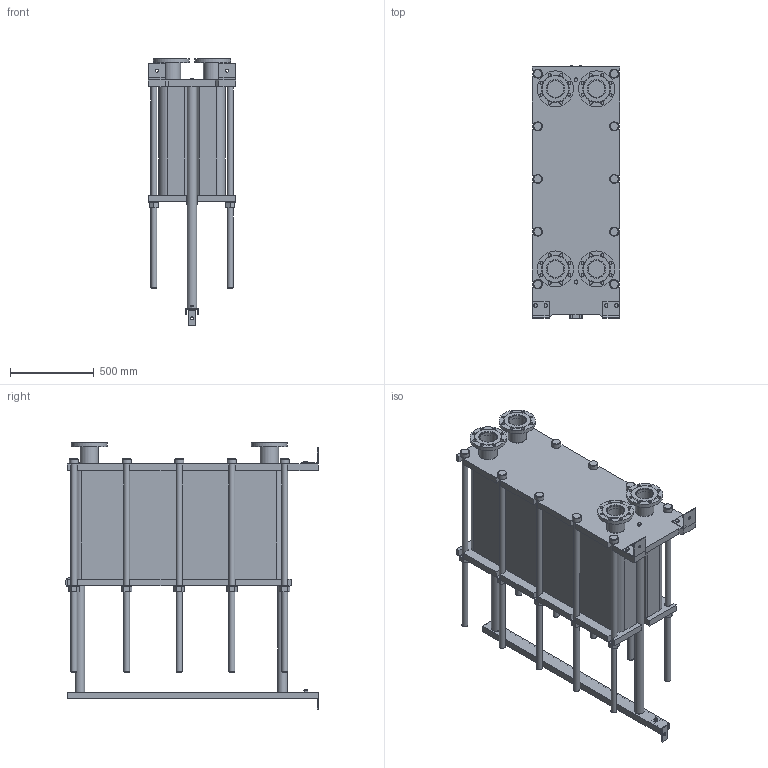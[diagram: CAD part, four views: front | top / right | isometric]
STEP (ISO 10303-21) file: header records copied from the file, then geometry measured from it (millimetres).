
FILE_DESCRIPTION(/* description */ (''),/* implementation_level */ '2;1');
FILE_NAME(/* name */ 'C:\Users\zhuro\Desktop\ENCO\TO\ЭН-04\ЭН-0,5-04-188-1.stp',/* time_stamp */ '2022-06-06T11:01:13+03:00',/* author */ ('zhuro'),/* organization */ (''),/* preprocessor_version */ 'ST-DEVELOPER v18.1',/* originating_system */ 'Autodesk Inventor 2022',/* authorisation */ '');
FILE_SCHEMA (('AUTOMOTIVE_DESIGN { 1 0 10303 214 3 1 1 }'));
Length unit declared in the file: millimetre
Products named in the file (1): ЭН-0,5-04-188-1
Bounding box: 520 x 1510 x 1599 mm (x, y, z)
Volume: 400084814.8 mm3; surface area: 10290390.3 mm2
Topology: 45 solids, 45 shells, 668 faces, 1611 edges, 1048 vertices
Faces by surface type: plane 457, cylinder 166, cone 39, torus 6
Full cylindrical faces by diameter (mm): 8 x4, 10 x2, 16 x8, 18 x35, 36 x25, 40 x2, 42 x1, 45 x4, 54 x10, 57 x2, 60 x10, 68 x2, 100 x4, 110 x8, 215 x4
Entity records: 23607 total; most frequent: CARTESIAN_POINT 7348, DIRECTION 3371, ORIENTED_EDGE 3142, EDGE_CURVE 1571, AXIS2_PLACEMENT_3D 1199, VERTEX_POINT 1044, LINE 973, VECTOR 973
